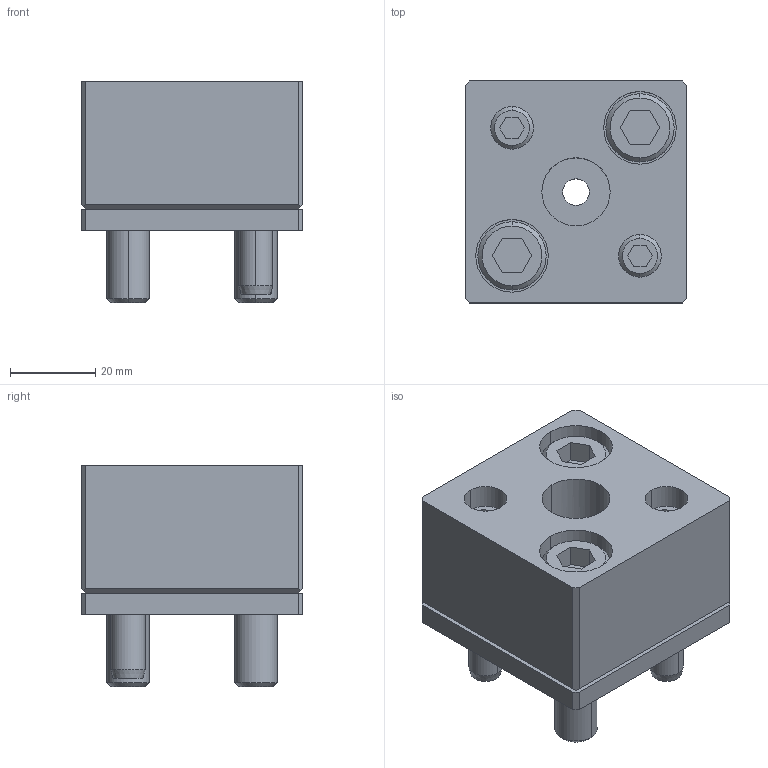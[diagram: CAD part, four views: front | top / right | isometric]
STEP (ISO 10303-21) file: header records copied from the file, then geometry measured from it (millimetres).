
FILE_DESCRIPTION(/* description */ (''),/* implementation_level */ '2;1');
FILE_NAME(/* name */ '3d_sr-fp16_05489_r00.stp',/* time_stamp */ '2011-01-10T14:09:57+09:00',/* author */ ('MISUMI'),/* organization */ (''),/* preprocessor_version */ 'ST-DEVELOPER v11',/* originating_system */ 'UGS - NX 5.0',/* authorisation */ '');
FILE_SCHEMA (('CONFIG_CONTROL_DESIGN'));
Length unit declared in the file: millimetre
Products named in the file (1): 3d_sr-fp16_05489_r00
Bounding box: 52 x 52 x 52 mm (x, y, z)
Volume: 86740.3 mm3; surface area: 30144.5 mm2
Topology: 8 solids, 8 shells, 159 faces, 364 edges, 235 vertices
Faces by surface type: plane 78, cylinder 55, cone 26
Entity records: 4636 total; most frequent: DIRECTION 814, CARTESIAN_POINT 806, ORIENTED_EDGE 728, EDGE_CURVE 364, AXIS2_PLACEMENT_3D 297, VERTEX_POINT 235, LINE 220, VECTOR 220
